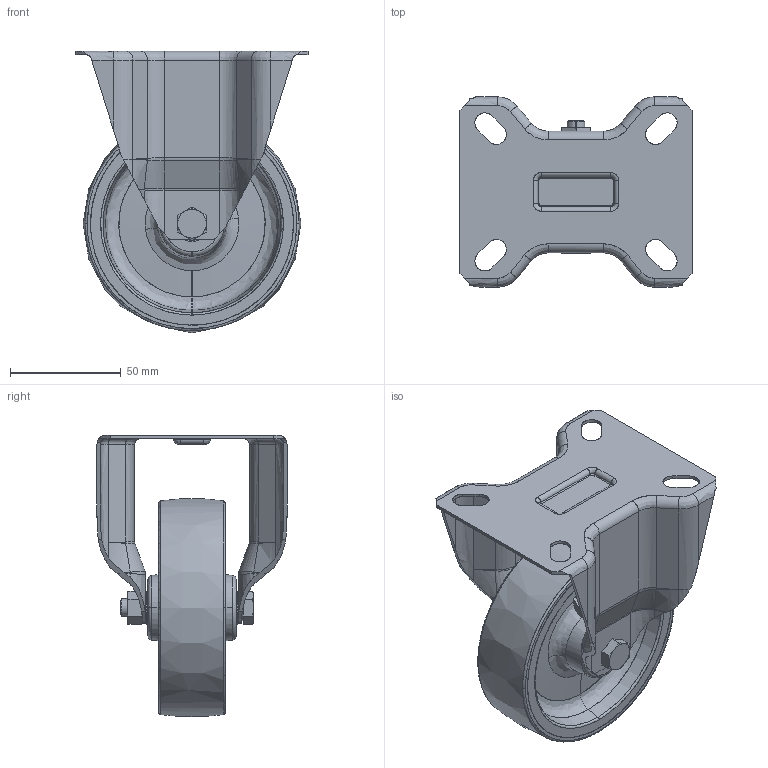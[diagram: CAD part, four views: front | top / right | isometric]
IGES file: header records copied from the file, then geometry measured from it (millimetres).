
Start section: SolidWorks IGES file using analytic representation for surfaces
Global section: file name: C:\Users\MarkoLa\Desktop\IGES\400645_IGES.IGS; native system: SolidWorks 2017; preprocessor: SolidWorks 2017; author: markola; date: 170411.074320; units: millimetre
Bounding box: 105 x 86 x 127.29 mm (x, y, z)
Surface area: 92697.3 mm2 (no closed solid volume)
Topology: 0 solids, 0 shells, 484 faces, 7462 edges, 7434 vertices
Faces by surface type: bspline 303, revolution 181
